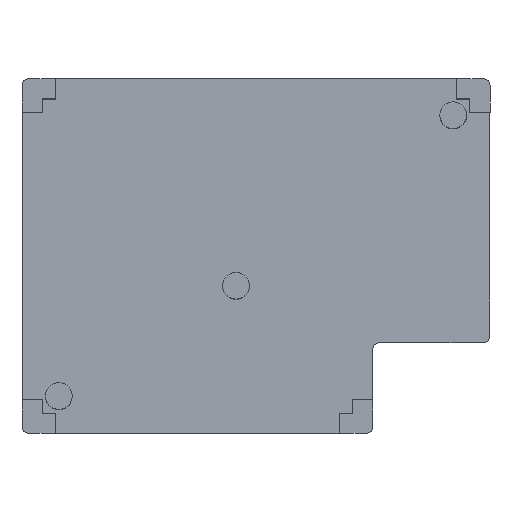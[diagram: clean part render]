
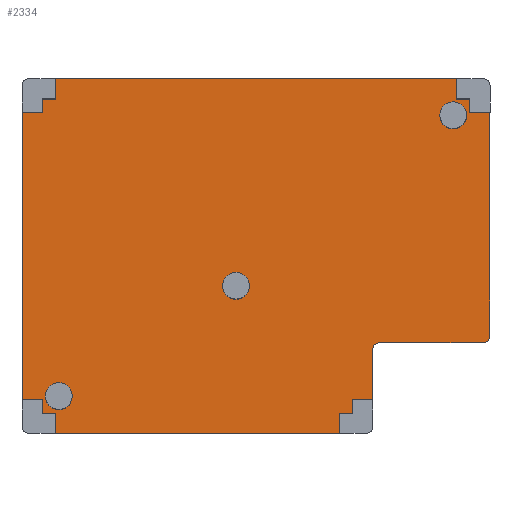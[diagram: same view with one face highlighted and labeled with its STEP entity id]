
A CAD part, top view. The second image highlights one B-rep face of the part: STEP entity #2334.
In plain terms, the highlighted planar face has unit normal (0, 0, 1).
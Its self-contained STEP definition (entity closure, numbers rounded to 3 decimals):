
#575=DIRECTION('',(0.,-1.,0.));
#576=VECTOR('',#575,0.396);
#577=CARTESIAN_POINT('',(0.604,7.296,14.6));
#578=LINE('',#577,#576);
#591=DIRECTION('',(0.,-1.,0.));
#592=VECTOR('',#591,0.396);
#593=CARTESIAN_POINT('',(0.604,-1.7,14.6));
#594=LINE('',#593,#592);
#603=DIRECTION('',(1.,0.,0.));
#604=VECTOR('',#603,0.6);
#605=CARTESIAN_POINT('',(0.003,-1.7,14.6));
#606=LINE('',#605,#604);
#607=DIRECTION('',(-1.,0.,0.));
#608=VECTOR('',#607,0.6);
#609=CARTESIAN_POINT('',(0.604,6.9,14.6));
#610=LINE('',#609,#608);
#611=DIRECTION('',(-1.,0.,0.));
#612=VECTOR('',#611,0.6);
#613=CARTESIAN_POINT('',(13.997,6.9,14.6));
#614=LINE('',#613,#612);
#615=DIRECTION('',(0.,1.,0.));
#616=VECTOR('',#615,6.697);
#617=CARTESIAN_POINT('',(13.997,0.203,14.6));
#618=LINE('',#617,#616);
#619=DIRECTION('',(1.,0.,0.));
#620=VECTOR('',#619,3.1);
#621=CARTESIAN_POINT('',(10.697,0.003,14.6));
#622=LINE('',#621,#620);
#623=CARTESIAN_POINT('',(10.697,0.003,14.6));
#624=CARTESIAN_POINT('',(10.63,0.003,14.6));
#625=CARTESIAN_POINT('',(10.547,-0.047,14.6));
#626=CARTESIAN_POINT('',(10.497,-0.13,14.6));
#627=CARTESIAN_POINT('',(10.497,-0.197,14.6));
#629=DIRECTION('',(0.,1.,0.));
#630=VECTOR('',#629,1.503);
#631=CARTESIAN_POINT('',(10.497,-1.7,14.6));
#632=LINE('',#631,#630);
#633=DIRECTION('',(1.,0.,0.));
#634=VECTOR('',#633,0.6);
#635=CARTESIAN_POINT('',(9.896,-1.7,14.6));
#636=LINE('',#635,#634);
#637=DIRECTION('',(0.,1.,0.));
#638=VECTOR('',#637,0.6);
#639=CARTESIAN_POINT('',(9.5,-2.697,14.6));
#640=LINE('',#639,#638);
#641=DIRECTION('',(1.,0.,0.));
#642=VECTOR('',#641,8.5);
#643=CARTESIAN_POINT('',(1.,-2.697,14.6));
#644=LINE('',#643,#642);
#645=DIRECTION('',(0.,-1.,0.));
#646=VECTOR('',#645,0.6);
#647=CARTESIAN_POINT('',(1.,-2.096,14.6));
#648=LINE('',#647,#646);
#649=CARTESIAN_POINT('',(1.1,-1.6,14.6));
#650=DIRECTION('',(0.,0.,1.));
#651=DIRECTION('',(0.,1.,0.));
#652=AXIS2_PLACEMENT_3D('',#649,#650,#651);
#654=CARTESIAN_POINT('',(1.1,-1.6,14.6));
#655=DIRECTION('',(0.,0.,1.));
#656=DIRECTION('',(0.,-1.,0.));
#657=AXIS2_PLACEMENT_3D('',#654,#655,#656);
#659=CARTESIAN_POINT('',(6.4,1.7,14.6));
#660=DIRECTION('',(0.,0.,1.));
#661=DIRECTION('',(0.,1.,0.));
#662=AXIS2_PLACEMENT_3D('',#659,#660,#661);
#664=CARTESIAN_POINT('',(6.4,1.7,14.6));
#665=DIRECTION('',(0.,0.,1.));
#666=DIRECTION('',(0.,-1.,0.));
#667=AXIS2_PLACEMENT_3D('',#664,#665,#666);
#669=CARTESIAN_POINT('',(12.9,6.8,14.6));
#670=DIRECTION('',(0.,0.,1.));
#671=DIRECTION('',(0.,1.,0.));
#672=AXIS2_PLACEMENT_3D('',#669,#670,#671);
#674=CARTESIAN_POINT('',(12.9,6.8,14.6));
#675=DIRECTION('',(0.,0.,1.));
#676=DIRECTION('',(0.,-1.,0.));
#677=AXIS2_PLACEMENT_3D('',#674,#675,#676);
#691=DIRECTION('',(0.,1.,0.));
#692=VECTOR('',#691,8.6);
#693=CARTESIAN_POINT('',(0.003,-1.7,14.6));
#694=LINE('',#693,#692);
#725=DIRECTION('',(-1.,0.,0.));
#726=VECTOR('',#725,0.396);
#727=CARTESIAN_POINT('',(13.396,7.296,14.6));
#728=LINE('',#727,#726);
#741=DIRECTION('',(-1.,0.,0.));
#742=VECTOR('',#741,0.396);
#743=CARTESIAN_POINT('',(1.,7.296,14.6));
#744=LINE('',#743,#742);
#753=DIRECTION('',(0.,-1.,0.));
#754=VECTOR('',#753,0.6);
#755=CARTESIAN_POINT('',(13.,7.897,14.6));
#756=LINE('',#755,#754);
#773=DIRECTION('',(1.,0.,0.));
#774=VECTOR('',#773,12.);
#775=CARTESIAN_POINT('',(1.,7.897,14.6));
#776=LINE('',#775,#774);
#889=DIRECTION('',(1.,0.,0.));
#890=VECTOR('',#889,0.396);
#891=CARTESIAN_POINT('',(0.604,-2.096,14.6));
#892=LINE('',#891,#890);
#901=DIRECTION('',(1.,0.,0.));
#902=VECTOR('',#901,0.396);
#903=CARTESIAN_POINT('',(9.5,-2.096,14.6));
#904=LINE('',#903,#902);
#917=DIRECTION('',(0.,1.,0.));
#918=VECTOR('',#917,0.396);
#919=CARTESIAN_POINT('',(9.896,-2.096,14.6));
#920=LINE('',#919,#918);
#967=CARTESIAN_POINT('',(13.997,0.203,14.6));
#968=CARTESIAN_POINT('',(13.997,0.137,14.6));
#969=CARTESIAN_POINT('',(13.946,0.054,14.6));
#970=CARTESIAN_POINT('',(13.863,0.003,14.6));
#971=CARTESIAN_POINT('',(13.797,0.003,14.6));
#993=DIRECTION('',(0.,1.,0.));
#994=VECTOR('',#993,0.396);
#995=CARTESIAN_POINT('',(13.396,6.9,14.6));
#996=LINE('',#995,#994);
#1049=DIRECTION('',(0.,1.,0.));
#1050=VECTOR('',#1049,0.6);
#1051=CARTESIAN_POINT('',(1.,7.296,14.6));
#1052=LINE('',#1051,#1050);
#1193=CARTESIAN_POINT('',(13.797,0.003,14.6));
#1194=VERTEX_POINT('',#1193);
#1195=CARTESIAN_POINT('',(10.697,0.003,14.6));
#1196=VERTEX_POINT('',#1195);
#1201=CARTESIAN_POINT('',(13.997,6.9,14.6));
#1202=VERTEX_POINT('',#1201);
#1203=CARTESIAN_POINT('',(13.997,0.203,14.6));
#1204=VERTEX_POINT('',#1203);
#1205=CARTESIAN_POINT('',(10.497,-1.7,14.6));
#1206=CARTESIAN_POINT('',(10.497,-0.197,14.6));
#1207=VERTEX_POINT('',#1205);
#1208=VERTEX_POINT('',#1206);
#1220=CARTESIAN_POINT('',(9.5,-2.697,14.6));
#1221=VERTEX_POINT('',#1220);
#1222=CARTESIAN_POINT('',(1.,-2.697,14.6));
#1223=VERTEX_POINT('',#1222);
#1247=CARTESIAN_POINT('',(0.003,-1.7,14.6));
#1248=VERTEX_POINT('',#1247);
#1249=CARTESIAN_POINT('',(0.003,6.9,14.6));
#1250=VERTEX_POINT('',#1249);
#1256=CARTESIAN_POINT('',(1.,7.897,14.6));
#1257=VERTEX_POINT('',#1256);
#1258=CARTESIAN_POINT('',(13.,7.897,14.6));
#1259=VERTEX_POINT('',#1258);
#1341=CARTESIAN_POINT('',(13.396,6.9,14.6));
#1342=CARTESIAN_POINT('',(13.396,7.296,14.6));
#1343=VERTEX_POINT('',#1341);
#1344=VERTEX_POINT('',#1342);
#1345=CARTESIAN_POINT('',(9.896,-2.096,14.6));
#1346=CARTESIAN_POINT('',(9.896,-1.7,14.6));
#1347=VERTEX_POINT('',#1345);
#1348=VERTEX_POINT('',#1346);
#1349=CARTESIAN_POINT('',(0.604,-2.096,14.6));
#1350=CARTESIAN_POINT('',(1.,-2.096,14.6));
#1351=VERTEX_POINT('',#1349);
#1352=VERTEX_POINT('',#1350);
#1353=CARTESIAN_POINT('',(9.5,-2.096,14.6));
#1354=VERTEX_POINT('',#1353);
#1355=CARTESIAN_POINT('',(0.604,7.296,14.6));
#1356=CARTESIAN_POINT('',(0.604,6.9,14.6));
#1357=VERTEX_POINT('',#1355);
#1358=VERTEX_POINT('',#1356);
#1359=CARTESIAN_POINT('',(0.604,-1.7,14.6));
#1360=VERTEX_POINT('',#1359);
#1361=CARTESIAN_POINT('',(13.,7.296,14.6));
#1362=VERTEX_POINT('',#1361);
#1363=CARTESIAN_POINT('',(1.,7.296,14.6));
#1364=VERTEX_POINT('',#1363);
#1377=CARTESIAN_POINT('',(1.1,-1.2,14.6));
#1378=CARTESIAN_POINT('',(1.1,-2.,14.6));
#1379=VERTEX_POINT('',#1377);
#1380=VERTEX_POINT('',#1378);
#1381=CARTESIAN_POINT('',(6.4,2.1,14.6));
#1382=CARTESIAN_POINT('',(6.4,1.3,14.6));
#1383=VERTEX_POINT('',#1381);
#1384=VERTEX_POINT('',#1382);
#1385=CARTESIAN_POINT('',(12.9,7.2,14.6));
#1386=CARTESIAN_POINT('',(12.9,6.4,14.6));
#1387=VERTEX_POINT('',#1385);
#1388=VERTEX_POINT('',#1386);
#2264=CARTESIAN_POINT('',(0.,0.,14.6));
#2265=DIRECTION('',(0.,0.,1.));
#2266=DIRECTION('',(1.,0.,0.));
#2267=AXIS2_PLACEMENT_3D('',#2264,#2265,#2266);
#2268=PLANE('',#2267);
#2269=ORIENTED_EDGE('',*,*,#2254,.F.);
#2271=ORIENTED_EDGE('',*,*,#2270,.F.);
#2273=ORIENTED_EDGE('',*,*,#2272,.T.);
#2275=ORIENTED_EDGE('',*,*,#2274,.F.);
#2276=ORIENTED_EDGE('',*,*,#2238,.F.);
#2278=ORIENTED_EDGE('',*,*,#2277,.F.);
#2280=ORIENTED_EDGE('',*,*,#2279,.T.);
#2282=ORIENTED_EDGE('',*,*,#2281,.T.);
#2284=ORIENTED_EDGE('',*,*,#2283,.T.);
#2286=ORIENTED_EDGE('',*,*,#2285,.F.);
#2288=ORIENTED_EDGE('',*,*,#2287,.F.);
#2290=ORIENTED_EDGE('',*,*,#2289,.F.);
#2292=ORIENTED_EDGE('',*,*,#2291,.F.);
#2294=ORIENTED_EDGE('',*,*,#2293,.T.);
#2296=ORIENTED_EDGE('',*,*,#2295,.F.);
#2298=ORIENTED_EDGE('',*,*,#2297,.T.);
#2300=ORIENTED_EDGE('',*,*,#2299,.F.);
#2302=ORIENTED_EDGE('',*,*,#2301,.F.);
#2304=ORIENTED_EDGE('',*,*,#2303,.F.);
#2306=ORIENTED_EDGE('',*,*,#2305,.F.);
#2308=ORIENTED_EDGE('',*,*,#2307,.F.);
#2309=ORIENTED_EDGE('',*,*,#2161,.F.);
#2311=ORIENTED_EDGE('',*,*,#2310,.F.);
#2313=ORIENTED_EDGE('',*,*,#2312,.F.);
#2314=EDGE_LOOP('',(#2269,#2271,#2273,#2275,#2276,#2278,#2280,#2282,#2284,#2286,
#2288,#2290,#2292,#2294,#2296,#2298,#2300,#2302,#2304,#2306,#2308,#2309,#2311,
#2313));
#2315=FACE_OUTER_BOUND('',#2314,.F.);
#2317=ORIENTED_EDGE('',*,*,#2316,.T.);
#2319=ORIENTED_EDGE('',*,*,#2318,.T.);
#2320=EDGE_LOOP('',(#2317,#2319));
#2321=FACE_BOUND('',#2320,.F.);
#2323=ORIENTED_EDGE('',*,*,#2322,.T.);
#2325=ORIENTED_EDGE('',*,*,#2324,.T.);
#2326=EDGE_LOOP('',(#2323,#2325));
#2327=FACE_BOUND('',#2326,.F.);
#2329=ORIENTED_EDGE('',*,*,#2328,.T.);
#2331=ORIENTED_EDGE('',*,*,#2330,.T.);
#2332=EDGE_LOOP('',(#2329,#2331));
#2333=FACE_BOUND('',#2332,.F.);
#2334=ADVANCED_FACE('',(#2315,#2321,#2327,#2333),#2268,.T.);
#628=B_SPLINE_CURVE_WITH_KNOTS('',3,(#623,#624,#625,#626,#627),.UNSPECIFIED.,
.F.,.F.,(4,1,4),(0.,0.5,1.),.UNSPECIFIED.);
#653=CIRCLE('',#652,0.4);
#658=CIRCLE('',#657,0.4);
#663=CIRCLE('',#662,0.4);
#668=CIRCLE('',#667,0.4);
#673=CIRCLE('',#672,0.4);
#678=CIRCLE('',#677,0.4);
#972=B_SPLINE_CURVE_WITH_KNOTS('',3,(#967,#968,#969,#970,#971),.UNSPECIFIED.,
.F.,.F.,(4,1,4),(0.,0.5,1.),.UNSPECIFIED.);
#2161=EDGE_CURVE('',#1223,#1221,#644,.T.);
#2238=EDGE_CURVE('',#1357,#1358,#578,.T.);
#2254=EDGE_CURVE('',#1360,#1351,#594,.T.);
#2270=EDGE_CURVE('',#1248,#1360,#606,.T.);
#2272=EDGE_CURVE('',#1248,#1250,#694,.T.);
#2274=EDGE_CURVE('',#1358,#1250,#610,.T.);
#2277=EDGE_CURVE('',#1364,#1357,#744,.T.);
#2279=EDGE_CURVE('',#1364,#1257,#1052,.T.);
#2281=EDGE_CURVE('',#1257,#1259,#776,.T.);
#2283=EDGE_CURVE('',#1259,#1362,#756,.T.);
#2285=EDGE_CURVE('',#1344,#1362,#728,.T.);
#2287=EDGE_CURVE('',#1343,#1344,#996,.T.);
#2289=EDGE_CURVE('',#1202,#1343,#614,.T.);
#2291=EDGE_CURVE('',#1204,#1202,#618,.T.);
#2293=EDGE_CURVE('',#1204,#1194,#972,.T.);
#2295=EDGE_CURVE('',#1196,#1194,#622,.T.);
#2297=EDGE_CURVE('',#1196,#1208,#628,.T.);
#2299=EDGE_CURVE('',#1207,#1208,#632,.T.);
#2301=EDGE_CURVE('',#1348,#1207,#636,.T.);
#2303=EDGE_CURVE('',#1347,#1348,#920,.T.);
#2305=EDGE_CURVE('',#1354,#1347,#904,.T.);
#2307=EDGE_CURVE('',#1221,#1354,#640,.T.);
#2310=EDGE_CURVE('',#1352,#1223,#648,.T.);
#2312=EDGE_CURVE('',#1351,#1352,#892,.T.);
#2316=EDGE_CURVE('',#1379,#1380,#653,.T.);
#2318=EDGE_CURVE('',#1380,#1379,#658,.T.);
#2322=EDGE_CURVE('',#1383,#1384,#663,.T.);
#2324=EDGE_CURVE('',#1384,#1383,#668,.T.);
#2328=EDGE_CURVE('',#1387,#1388,#673,.T.);
#2330=EDGE_CURVE('',#1388,#1387,#678,.T.);
